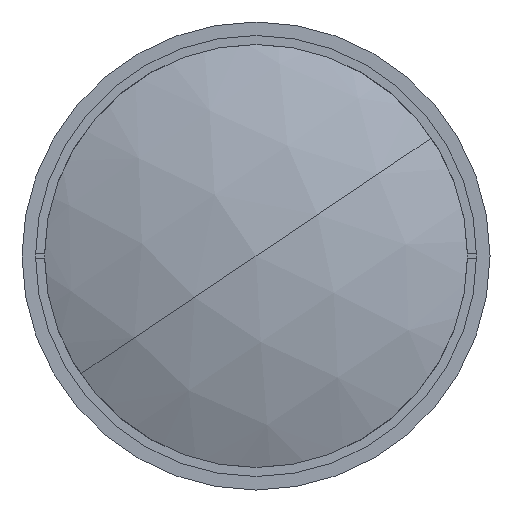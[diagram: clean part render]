
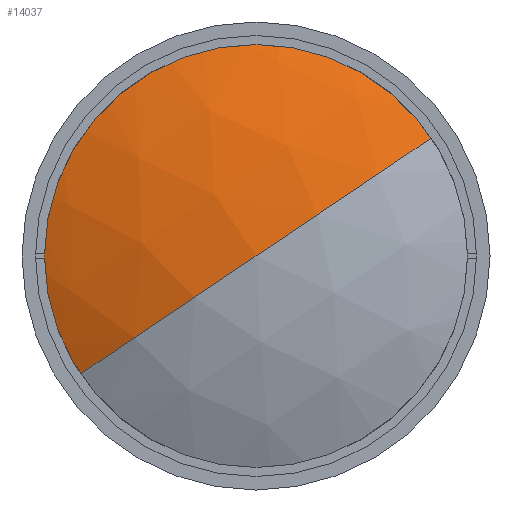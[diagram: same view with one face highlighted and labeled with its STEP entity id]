
A CAD part, left-side view. The second image highlights one B-rep face of the part: STEP entity #14037.
In plain terms, the highlighted spherical face has radius 114.92 mm.
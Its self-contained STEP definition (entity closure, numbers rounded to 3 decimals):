
#274 = DIRECTION ( 'NONE',  ( -1., 0., 0. ) ) ;
#430 = ORIENTED_EDGE ( 'NONE', *, *, #8073, .T. ) ;
#618 = EDGE_LOOP ( 'NONE', ( #8877, #430, #6475 ) ) ;
#1518 = CIRCLE ( 'NONE', #12701, 114.92 ) ;
#1783 = CARTESIAN_POINT ( 'NONE',  ( 116.92, 0., 0. ) ) ;
#1790 = CARTESIAN_POINT ( 'NONE',  ( 116.92, 0., 0. ) ) ;
#3029 = DIRECTION ( 'NONE',  ( 0., 0.83, -0.558 ) ) ;
#3031 = DIRECTION ( 'NONE',  ( 0., -0.83, 0.558 ) ) ;
#3325 = CARTESIAN_POINT ( 'NONE',  ( 12.504, -39.828, 26.79 ) ) ;
#3392 = CIRCLE ( 'NONE', #10897, 114.92 ) ;
#4675 = EDGE_CURVE ( 'NONE', #9049, #13320, #13893, .T. ) ;
#4921 = FACE_OUTER_BOUND ( 'NONE', #618, .T. ) ;
#5219 = EDGE_CURVE ( 'NONE', #9049, #14466, #1518, .T. ) ;
#6186 = DIRECTION ( 'NONE',  ( 0., 0.558, 0.83 ) ) ;
#6475 = ORIENTED_EDGE ( 'NONE', *, *, #5219, .F. ) ;
#7290 = CARTESIAN_POINT ( 'NONE',  ( 116.92, 0., 0. ) ) ;
#7565 = CARTESIAN_POINT ( 'NONE',  ( 12.504, 0., 0. ) ) ;
#8073 = EDGE_CURVE ( 'NONE', #13320, #14466, #3392, .T. ) ;
#8796 = DIRECTION ( 'NONE',  ( 0., 0.558, 0.83 ) ) ;
#8877 = ORIENTED_EDGE ( 'NONE', *, *, #4675, .T. ) ;
#9008 = CARTESIAN_POINT ( 'NONE',  ( 12.504, 39.828, -26.79 ) ) ;
#9011 = CARTESIAN_POINT ( 'NONE',  ( 2., 0., 0. ) ) ;
#9049 = VERTEX_POINT ( 'NONE', #3325 ) ;
#9842 = DIRECTION ( 'NONE',  ( 0., -0.83, 0.558 ) ) ;
#10302 = DIRECTION ( 'NONE',  ( 0., -0.558, -0.83 ) ) ;
#10307 = DIRECTION ( 'NONE',  ( 0., 0.558, 0.83 ) ) ;
#10897 = AXIS2_PLACEMENT_3D ( 'NONE', #1790, #10307, #3031 ) ;
#11376 = AXIS2_PLACEMENT_3D ( 'NONE', #7565, #274, #8796 ) ;
#12380 = AXIS2_PLACEMENT_3D ( 'NONE', #7290, #6186, #9842 ) ;
#12701 = AXIS2_PLACEMENT_3D ( 'NONE', #1783, #10302, #3029 ) ;
#13320 = VERTEX_POINT ( 'NONE', #9008 ) ;
#13893 = CIRCLE ( 'NONE', #11376, 48. ) ;
#14037 = ADVANCED_FACE ( 'NONE', ( #4921 ), #14232, .T. ) ;
#14232 = SPHERICAL_SURFACE ( 'NONE', #12380, 114.92 ) ;
#14466 = VERTEX_POINT ( 'NONE', #9011 ) ;
